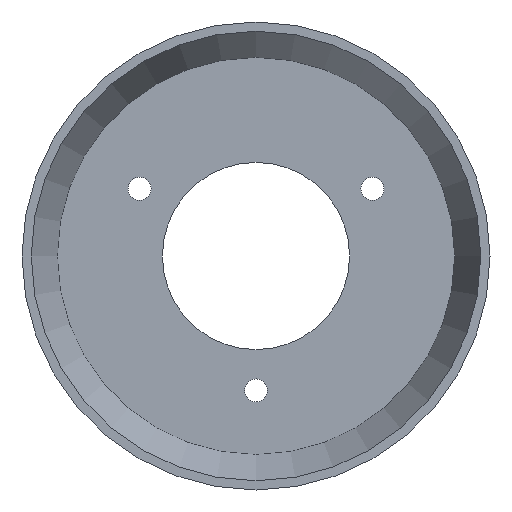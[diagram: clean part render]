
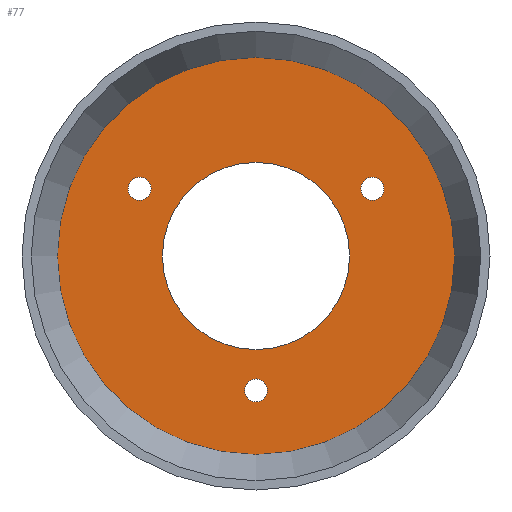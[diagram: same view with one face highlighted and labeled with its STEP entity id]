
A CAD part, front view. The second image highlights one B-rep face of the part: STEP entity #77.
In plain terms, the highlighted planar face has unit normal (0, -1, 0).
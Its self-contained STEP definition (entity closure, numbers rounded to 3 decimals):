
#77 = ADVANCED_FACE( '', ( #91, #92, #93, #94, #95 ), #96, .T. );
#91 = FACE_OUTER_BOUND( '', #124, .T. );
#92 = FACE_BOUND( '', #125, .T. );
#93 = FACE_BOUND( '', #126, .T. );
#94 = FACE_BOUND( '', #127, .T. );
#95 = FACE_BOUND( '', #128, .T. );
#96 = PLANE( '', #129 );
#124 = EDGE_LOOP( '', ( #161 ) );
#125 = EDGE_LOOP( '', ( #162 ) );
#126 = EDGE_LOOP( '', ( #163 ) );
#127 = EDGE_LOOP( '', ( #164 ) );
#128 = EDGE_LOOP( '', ( #165 ) );
#129 = AXIS2_PLACEMENT_3D( '', #166, #167, #168 );
#161 = ORIENTED_EDGE( '', *, *, #203, .T. );
#162 = ORIENTED_EDGE( '', *, *, #205, .T. );
#163 = ORIENTED_EDGE( '', *, *, #206, .T. );
#164 = ORIENTED_EDGE( '', *, *, #207, .T. );
#165 = ORIENTED_EDGE( '', *, *, #208, .F. );
#166 = CARTESIAN_POINT( '', ( 11., 7., 0. ) );
#167 = DIRECTION( '', ( 0., -1., 0. ) );
#168 = DIRECTION( '', ( 0., 0., -1. ) );
#203 = EDGE_CURVE( '', #216, #216, #217, .T. );
#205 = EDGE_CURVE( '', #220, #220, #221, .F. );
#206 = EDGE_CURVE( '', #222, #222, #223, .F. );
#207 = EDGE_CURVE( '', #224, #224, #225, .F. );
#208 = EDGE_CURVE( '', #226, #226, #227, .T. );
#216 = VERTEX_POINT( '', #240 );
#217 = CIRCLE( '', #241, 23.346 );
#220 = VERTEX_POINT( '', #244 );
#221 = CIRCLE( '', #245, 1.35 );
#222 = VERTEX_POINT( '', #246 );
#223 = CIRCLE( '', #247, 1.35 );
#224 = VERTEX_POINT( '', #248 );
#225 = CIRCLE( '', #249, 1.35 );
#226 = VERTEX_POINT( '', #250 );
#227 = CIRCLE( '', #251, 11. );
#240 = CARTESIAN_POINT( '', ( 0., 7., -23.346 ) );
#241 = AXIS2_PLACEMENT_3D( '', #265, #266, #267 );
#244 = CARTESIAN_POINT( '', ( 0., 7., -17.15 ) );
#245 = AXIS2_PLACEMENT_3D( '', #271, #272, #273 );
#246 = CARTESIAN_POINT( '', ( -13.683, 7., 6.55 ) );
#247 = AXIS2_PLACEMENT_3D( '', #274, #275, #276 );
#248 = CARTESIAN_POINT( '', ( 13.683, 7., 6.55 ) );
#249 = AXIS2_PLACEMENT_3D( '', #277, #278, #279 );
#250 = CARTESIAN_POINT( '', ( 0., 7., -11. ) );
#251 = AXIS2_PLACEMENT_3D( '', #280, #281, #282 );
#265 = CARTESIAN_POINT( '', ( 0., 7., 0. ) );
#266 = DIRECTION( '', ( 0., -1., 0. ) );
#267 = DIRECTION( '', ( 0., 0., -1. ) );
#271 = CARTESIAN_POINT( '', ( 0., 7., -15.8 ) );
#272 = DIRECTION( '', ( 0., -1., 0. ) );
#273 = DIRECTION( '', ( 0., 0., -1. ) );
#274 = CARTESIAN_POINT( '', ( -13.683, 7., 7.9 ) );
#275 = DIRECTION( '', ( 0., -1., 0. ) );
#276 = DIRECTION( '', ( 0., 0., -1. ) );
#277 = CARTESIAN_POINT( '', ( 13.683, 7., 7.9 ) );
#278 = DIRECTION( '', ( 0., -1., 0. ) );
#279 = DIRECTION( '', ( 0., 0., -1. ) );
#280 = CARTESIAN_POINT( '', ( 0., 7., 0. ) );
#281 = DIRECTION( '', ( 0., -1., 0. ) );
#282 = DIRECTION( '', ( 0., 0., -1. ) );
